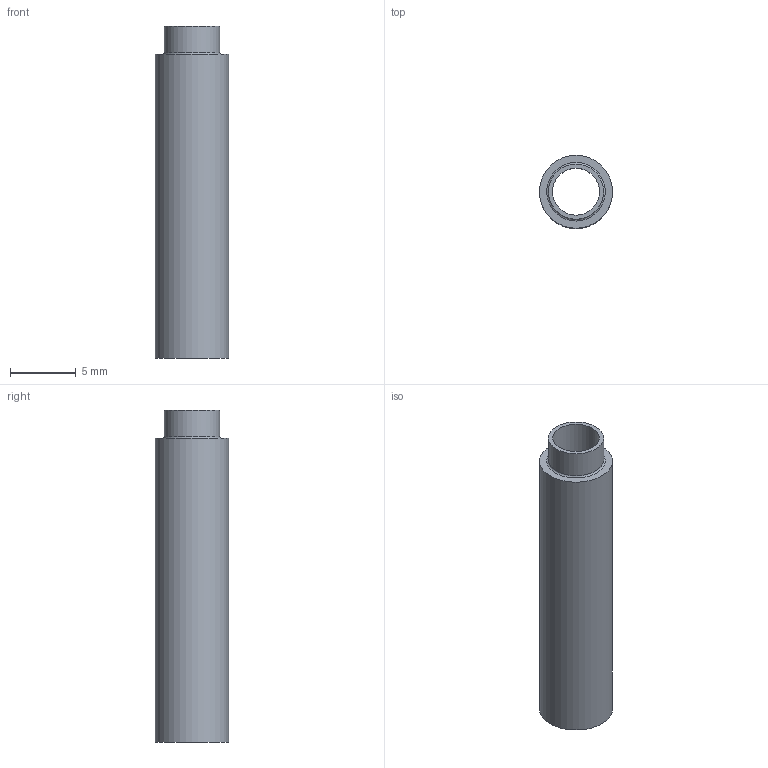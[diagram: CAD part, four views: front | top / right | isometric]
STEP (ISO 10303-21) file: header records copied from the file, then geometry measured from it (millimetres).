
FILE_DESCRIPTION(/* description */ (''),/* implementation_level */ '2;1');
FILE_NAME(/* name */ '827-9999-905.stp',/* time_stamp */ '2015-01-27T10:23:32-06:00',/* author */ (''),/* organization */ (''),/* preprocessor_version */ 'ST-DEVELOPER v15',/* originating_system */ 'SIEMENS PLM Software NX 8.5',/* authorisation */ '');
FILE_SCHEMA (('AP203_CONFIGURATION_CONTROLLED_3D_DESIGN_OF_MECHANICAL_PARTS_AND_ASSEMBLIES_MIM_LF { 1 0 10303 403 2 1 2}'));
Length unit declared in the file: inch
Products named in the file (1): tama123C0503uf48
Bounding box: 5.56 x 5.56 x 25.27 mm (x, y, z)
Volume: 272.3 mm3; surface area: 777.1 mm2
Topology: 1 solids, 1 shells, 9 faces, 16 edges, 10 vertices
Faces by surface type: cylinder 4, plane 3, cone 1, torus 1
Full cylindrical faces by diameter (mm): 3.569 x1, 4.089 x1, 4.204 x1, 5.563 x1
Entity records: 282 total; most frequent: DIRECTION 38, CARTESIAN_POINT 28, AXIS2_PLACEMENT_3D 19, FACE_BOUND 18, EDGE_LOOP 18, ORIENTED_EDGE 18, ADVANCED_FACE 9, VERTEX_POINT 9
